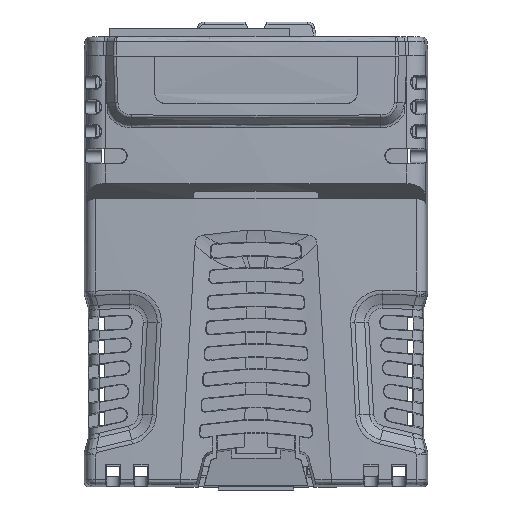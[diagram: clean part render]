
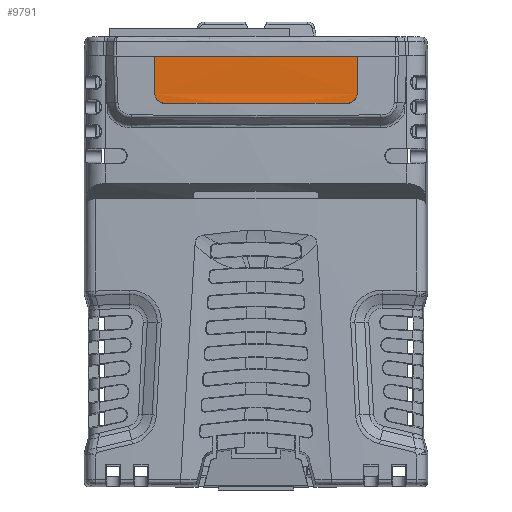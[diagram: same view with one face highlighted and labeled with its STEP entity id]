
A CAD part, top view. The second image highlights one B-rep face of the part: STEP entity #9791.
In plain terms, the highlighted cylindrical face has radius 799.7 mm (diameter 1599.4 mm), a partial arc.
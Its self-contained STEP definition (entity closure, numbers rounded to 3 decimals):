
#829 = EDGE_LOOP ( 'NONE', ( #65307, #60148, #52972, #9682, #119861, #50001 ) ) ;
#1039 = CARTESIAN_POINT ( 'NONE',  ( 19.373, 75.898, 24.015 ) ) ;
#1870 = CARTESIAN_POINT ( 'NONE',  ( 6.664, 84.792, 24.333 ) ) ;
#3567 = CARTESIAN_POINT ( 'NONE',  ( -19.992, 84.797, 24. ) ) ;
#7004 = DIRECTION ( 'NONE',  ( 0., 1., 0. ) ) ;
#9682 = ORIENTED_EDGE ( 'NONE', *, *, #75925, .T. ) ;
#9791 = ADVANCED_FACE ( 'NONE', ( #88171 ), #109819, .T. ) ;
#12769 = AXIS2_PLACEMENT_3D ( 'NONE', #68936, #58141, #110213 ) ;
#14800 = EDGE_CURVE ( 'NONE', #60374, #42394, #61914, .T. ) ;
#15938 = CARTESIAN_POINT ( 'NONE',  ( 19.992, 84.797, 24. ) ) ;
#16464 = CARTESIAN_POINT ( 'NONE',  ( 18.243, 75.495, 24.042 ) ) ;
#28045 = DIRECTION ( 'NONE',  ( 0., 1., 0. ) ) ;
#28553 = CARTESIAN_POINT ( 'NONE',  ( -19.122, 75.722, 24.021 ) ) ;
#29240 = CARTESIAN_POINT ( 'NONE',  ( -18.548, 75.513, 24.035 ) ) ;
#30017 = EDGE_CURVE ( 'NONE', #130650, #44396, #48827, .T. ) ;
#32121 = CARTESIAN_POINT ( 'NONE',  ( 19.975, 76.94, 24. ) ) ;
#34016 = VECTOR ( 'NONE', #7004, 1000. ) ;
#38647 = CARTESIAN_POINT ( 'NONE',  ( -19.992, 77.245, 24. ) ) ;
#39554 = CARTESIAN_POINT ( 'NONE',  ( 18.548, 75.513, 24.035 ) ) ;
#41051 = CARTESIAN_POINT ( 'NONE',  ( -6.664, 84.792, 24.333 ) ) ;
#42215 = CARTESIAN_POINT ( 'NONE',  ( 19.992, 77.143, 24. ) ) ;
#42394 = VERTEX_POINT ( 'NONE', #15938 ) ;
#42532 = DIRECTION ( 'NONE',  ( 0., -1., 0. ) ) ;
#44396 = VERTEX_POINT ( 'NONE', #78582 ) ;
#48827 = B_SPLINE_CURVE_WITH_KNOTS ( 'NONE', 3,
 ( #38647, #121115, #102857, #102200, #90703, #49487, #131889, #28553, #121779, #29240, #111673, #133216 ),
 .UNSPECIFIED., .F., .F.,
 ( 4, 1, 1, 1, 1, 1, 1, 1, 1, 4 ),
 ( 0., 0.111, 0.222, 0.333, 0.444, 0.556, 0.667, 0.778, 0.889, 1. ),
 .UNSPECIFIED. ) ;
#49487 = CARTESIAN_POINT ( 'NONE',  ( -19.59, 76.115, 24.01 ) ) ;
#50001 = ORIENTED_EDGE ( 'NONE', *, *, #14800, .F. ) ;
#51007 = VERTEX_POINT ( 'NONE', #16464 ) ;
#52047 = CARTESIAN_POINT ( 'NONE',  ( -19.992, 84.797, 24. ) ) ;
#52692 = LINE ( 'NONE', #52047, #61406 ) ;
#52972 = ORIENTED_EDGE ( 'NONE', *, *, #80655, .T. ) ;
#58141 = DIRECTION ( 'NONE',  ( 0., 1., 0. ) ) ;
#58410 = CARTESIAN_POINT ( 'NONE',  ( 0., 84.78, -775.45 ) ) ;
#59824 = CARTESIAN_POINT ( 'NONE',  ( 18.243, 75.495, 24.042 ) ) ;
#60148 = ORIENTED_EDGE ( 'NONE', *, *, #30017, .T. ) ;
#60374 = VERTEX_POINT ( 'NONE', #3567 ) ;
#61406 = VECTOR ( 'NONE', #42532, 1000. ) ;
#61914 = B_SPLINE_CURVE_WITH_KNOTS ( 'NONE', 3,
 ( #62643, #41051, #1870, #82285 ),
 .UNSPECIFIED., .F., .F.,
 ( 4, 4 ),
 ( 0., 1. ),
 .UNSPECIFIED. ) ;
#62643 = CARTESIAN_POINT ( 'NONE',  ( -19.992, 84.797, 24. ) ) ;
#65307 = ORIENTED_EDGE ( 'NONE', *, *, #116016, .T. ) ;
#67157 = CARTESIAN_POINT ( 'NONE',  ( 19.992, 77.245, 24. ) ) ;
#68936 = CARTESIAN_POINT ( 'NONE',  ( 0., 75.495, -775.45 ) ) ;
#69099 = LINE ( 'NONE', #102221, #34016 ) ;
#72624 = CARTESIAN_POINT ( 'NONE',  ( 19.895, 76.644, 24.002 ) ) ;
#73226 = CIRCLE ( 'NONE', #12769, 799.7 ) ;
#75925 = EDGE_CURVE ( 'NONE', #51007, #88765, #98866, .T. ) ;
#78582 = CARTESIAN_POINT ( 'NONE',  ( -18.243, 75.495, 24.042 ) ) ;
#80655 = EDGE_CURVE ( 'NONE', #44396, #51007, #73226, .T. ) ;
#82285 = CARTESIAN_POINT ( 'NONE',  ( 19.992, 84.797, 24. ) ) ;
#82329 = AXIS2_PLACEMENT_3D ( 'NONE', #58410, #28045, #109135 ) ;
#88171 = FACE_OUTER_BOUND ( 'NONE', #829, .T. ) ;
#88765 = VERTEX_POINT ( 'NONE', #67157 ) ;
#90703 = CARTESIAN_POINT ( 'NONE',  ( -19.766, 76.366, 24.006 ) ) ;
#90926 = CARTESIAN_POINT ( 'NONE',  ( 18.346, 75.496, 24.04 ) ) ;
#94232 = CARTESIAN_POINT ( 'NONE',  ( 19.766, 76.366, 24.006 ) ) ;
#98866 = B_SPLINE_CURVE_WITH_KNOTS ( 'NONE', 3,
 ( #59824, #90926, #39554, #101760, #123360, #1039, #105072, #94232, #72624, #32121, #42215, #104403 ),
 .UNSPECIFIED., .F., .F.,
 ( 4, 1, 1, 1, 1, 1, 1, 1, 1, 4 ),
 ( 0., 0.111, 0.222, 0.333, 0.444, 0.556, 0.667, 0.778, 0.889, 1. ),
 .UNSPECIFIED. ) ;
#101760 = CARTESIAN_POINT ( 'NONE',  ( 18.844, 75.593, 24.028 ) ) ;
#102200 = CARTESIAN_POINT ( 'NONE',  ( -19.895, 76.644, 24.002 ) ) ;
#102221 = CARTESIAN_POINT ( 'NONE',  ( 19.992, 77.245, 24. ) ) ;
#102681 = CARTESIAN_POINT ( 'NONE',  ( -19.992, 77.245, 24. ) ) ;
#102857 = CARTESIAN_POINT ( 'NONE',  ( -19.975, 76.94, 24. ) ) ;
#104403 = CARTESIAN_POINT ( 'NONE',  ( 19.992, 77.245, 24. ) ) ;
#105072 = CARTESIAN_POINT ( 'NONE',  ( 19.59, 76.115, 24.01 ) ) ;
#109135 = DIRECTION ( 'NONE',  ( -1., 0., 0. ) ) ;
#109819 = CYLINDRICAL_SURFACE ( 'NONE', #82329, 799.7 ) ;
#110213 = DIRECTION ( 'NONE',  ( -0.023, 0., 1. ) ) ;
#111673 = CARTESIAN_POINT ( 'NONE',  ( -18.346, 75.496, 24.04 ) ) ;
#116016 = EDGE_CURVE ( 'NONE', #60374, #130650, #52692, .T. ) ;
#119861 = ORIENTED_EDGE ( 'NONE', *, *, #130768, .T. ) ;
#121115 = CARTESIAN_POINT ( 'NONE',  ( -19.992, 77.143, 24. ) ) ;
#121779 = CARTESIAN_POINT ( 'NONE',  ( -18.844, 75.593, 24.028 ) ) ;
#123360 = CARTESIAN_POINT ( 'NONE',  ( 19.122, 75.722, 24.021 ) ) ;
#130650 = VERTEX_POINT ( 'NONE', #102681 ) ;
#130768 = EDGE_CURVE ( 'NONE', #88765, #42394, #69099, .T. ) ;
#131889 = CARTESIAN_POINT ( 'NONE',  ( -19.373, 75.898, 24.015 ) ) ;
#133216 = CARTESIAN_POINT ( 'NONE',  ( -18.243, 75.495, 24.042 ) ) ;
